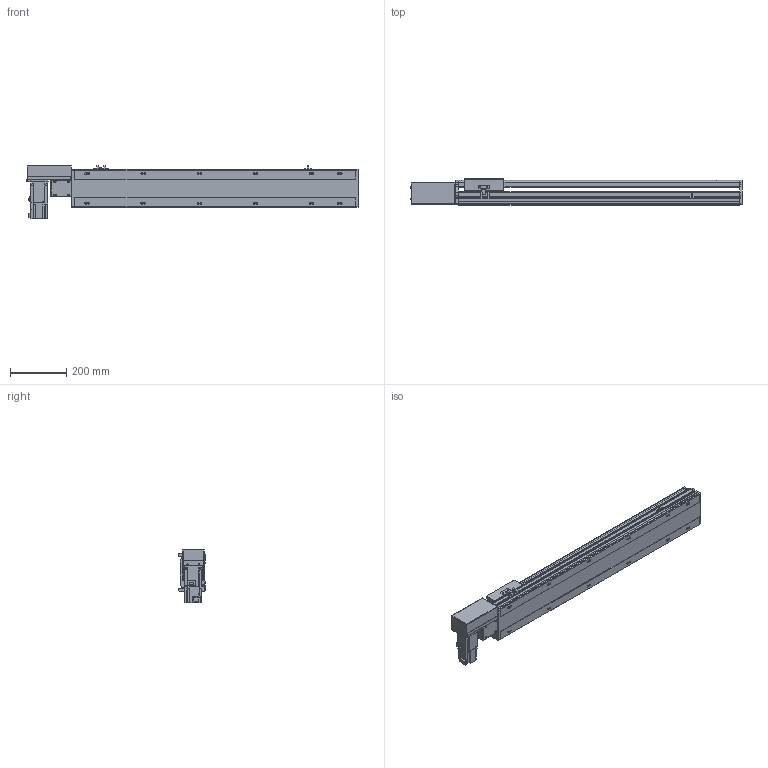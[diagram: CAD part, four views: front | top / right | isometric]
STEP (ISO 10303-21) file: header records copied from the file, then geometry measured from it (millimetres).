
FILE_DESCRIPTION( ( 'STEP AP214' ), '1' );
FILE_NAME( 'x:/temp/worker_6/temp/exporttempdir_5396_55_D6oTJ/format_0/PBS140S-P40-S750-R-T40-C1-N(0).stp', '2022-06-09T00:14:16', ( 'License CC BY-ND 4.0' ), ( 'CADENAS' ), ' ', 'PARTsolutions', ' ' );
FILE_SCHEMA( ( 'AUTOMOTIVE_DESIGN { 1 0 10303 214 1 1 1 1 }' ) );
Length unit declared in the file: millimetre
Products named in the file (7): PBS140S-P40-S750-R-T40-C1-N(0); _PBS140S-S750()_body; _PBS140ST-R_motors; _T40-p1; _PBS140S_sliser; _PBS140S_plant; _PBS140S_sensor
Assembly tree (8 placements, depth 2):
  PBS140S-P40-S750-R-T40-C1-N(0)
    _PBS140S-S750()_body
    _PBS140ST-R_motors
    _T40-p1
    _PBS140S_sliser
    _PBS140S_plant
    _PBS140S_sensor  x3
Bounding box: 1183 x 93 x 189.7 mm (x, y, z)
Volume: 5900493.3 mm3; surface area: 1033026.2 mm2
Topology: 8 solids, 8 shells, 1067 faces, 2831 edges, 1853 vertices
Faces by surface type: plane 690, cylinder 329, cone 38, sphere 8, torus 2
Full cylindrical faces by diameter (mm): 3.242 x4, 4 x2, 4.134 x4, 4.4 x8, 4.5 x2, 4.8 x4, 4.917 x20, 5.5 x7, 6 x2, 7 x14, 7.5 x8, 8 x12, 8.5 x4, 10.5 x12, 14 x1, 30 x2, 50 x2
Entity records: 39052 total; most frequent: CARTESIAN_POINT 6070, DIRECTION 5208, ORIENTED_EDGE 4942, EDGE_CURVE 2471, AXIS2_PLACEMENT_3D 1799, VERTEX_POINT 1705, LINE 1610, VECTOR 1610
